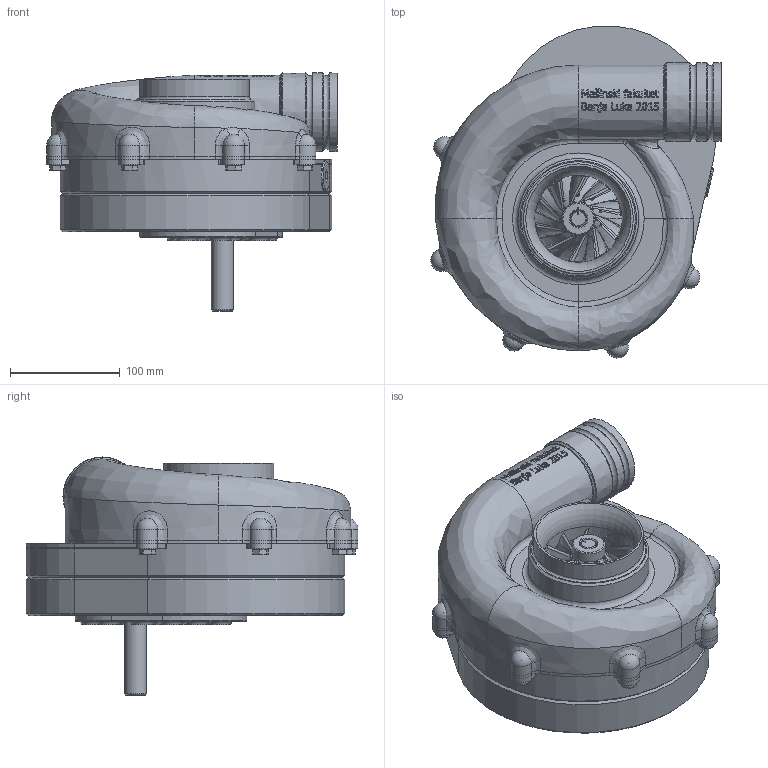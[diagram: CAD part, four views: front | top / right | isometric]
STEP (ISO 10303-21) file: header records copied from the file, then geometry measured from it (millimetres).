
FILE_DESCRIPTION(/* description */ (''),/* implementation_level */ '2;1');
FILE_NAME(/* name */ 'C:\Users\stank\Desktop\Sklop turbokompresora.stp',/* time_stamp */ '2015-08-25T09:24:26+02:00',/* author */ ('stank'),/* organization */ (''),/* preprocessor_version */ 'ST-DEVELOPER v16.1',/* originating_system */ 'Autodesk Inventor 2016',/* authorisation */ '');
FILE_SCHEMA (('AUTOMOTIVE_DESIGN { 1 0 10303 214 3 1 1 }'));
Length unit declared in the file: millimetre
Products named in the file (25): rotor turbo kompresosra; Srednji dio kucista; Usini dio kucista; Shaft1; Shaft1_1; Shaft2; Shaft2_1; Spur Gear23; Spur Gears3; Key Connection2; Spur Gear11; Spur Gears1; ISO 2491 - A  8 x 5 x 20; Key Connection4; BS 292_ Part 1 - N 1005 - 25 x 47 x 12; Bearing1; Bearing2; Bearing3; Bearing4; Poklopac turbokompresora; Donji dio poklopca; AS 1421 - M8x40 Cone Point; AS 1110 - M8 x 12; Vijak za ulje; Sklop turbokompresora
Assembly tree (44 placements, depth 3):
  Sklop turbokompresora
    rotor turbo kompresosra
    Srednji dio kucista
    Usini dio kucista
    Shaft1_1
      Shaft1
    Shaft2_1
      Shaft2
    Spur Gears3
      Spur Gear23
    Key Connection2
    Spur Gears1
      Spur Gear11
    Key Connection4
      ISO 2491 - A  8 x 5 x 20
    Bearing1
      BS 292_ Part 1 - N 1005 - 25 x 47 x 12
    Bearing2
      BS 292_ Part 1 - N 1005 - 25 x 47 x 12
    Bearing3
      BS 292_ Part 1 - N 1005 - 25 x 47 x 12
    Bearing4
      BS 292_ Part 1 - N 1005 - 25 x 47 x 12
    Poklopac turbokompresora
    Donji dio poklopca
    AS 1421 - M8x40 Cone Point  x14
    AS 1110 - M8 x 12  x5
    Vijak za ulje
Bounding box: 264.32 x 302.32 x 216.77 mm (x, y, z)
Volume: 3186824.5 mm3; surface area: 958379 mm2
Topology: 38 solids, 38 shells, 2443 faces, 6207 edges, 3858 vertices
Faces by surface type: plane 827, bspline 789, cylinder 512, cone 204, torus 106, sphere 5
Full cylindrical faces by diameter (mm): 8 x57, 9 x15, 13 x5, 15 x3, 20 x3, 24 x1, 25 x8, 26 x1, 28 x4, 30 x6, 32 x2, 32.172 x8, 47 x8, 53 x2, 55 x2, 56 x1, 80 x1, 100 x1, 110 x1, 135 x1
Entity records: 77197 total; most frequent: CARTESIAN_POINT 36110, ORIENTED_EDGE 9488, DIRECTION 6465, EDGE_CURVE 4723, VERTEX_POINT 3108, AXIS2_PLACEMENT_3D 2638, EDGE_LOOP 2229, B_SPLINE_CURVE_WITH_KNOTS 2066
